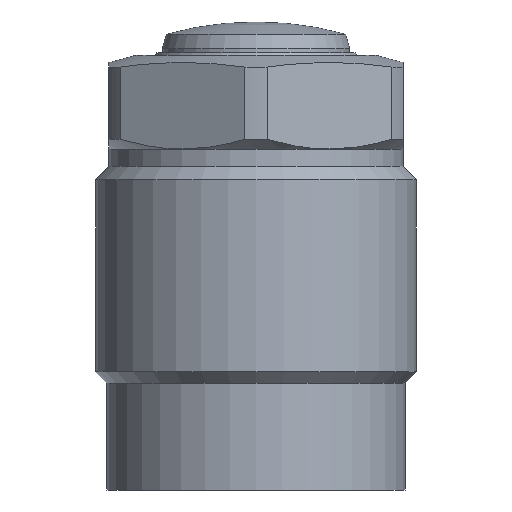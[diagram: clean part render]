
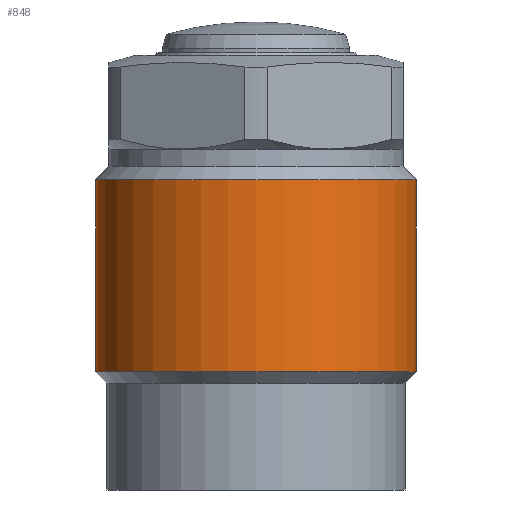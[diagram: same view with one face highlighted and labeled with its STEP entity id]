
A CAD part, front view. The second image highlights one B-rep face of the part: STEP entity #848.
In plain terms, the highlighted cylindrical face has radius 12 mm (diameter 24 mm), a partial arc.
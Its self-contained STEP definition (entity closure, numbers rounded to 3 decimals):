
#785=CARTESIAN_POINT('',(-12.0,0.0,-23.65));
#786=VERTEX_POINT('',#785);
#794=CARTESIAN_POINT('',(12.0,0.0,-23.65));
#795=VERTEX_POINT('',#794);
#802=CARTESIAN_POINT('',(0.0,0.0,-23.65));
#803=DIRECTION('',(0.0,0.0,1.0));
#804=DIRECTION('',(1.0,0.0,-0.0));
#805=AXIS2_PLACEMENT_3D('',#802,#803,#804);
#806=CIRCLE('',#805,12.0);
#807=EDGE_CURVE('no 1483',#786,#795,#806,.T.);
#817=CARTESIAN_POINT('',(-12.,0.0,-9.3));
#818=VERTEX_POINT('',#817);
#819=CARTESIAN_POINT('',(-12.,0.0,-23.65));
#820=DIRECTION('',(0.,-0.0,1.0));
#821=VECTOR('',#820,1.0);
#822=LINE('',#819,#821);
#823=EDGE_CURVE('no 1493',#786,#818,#822,.T.);
#824=ORIENTED_EDGE('',*,*,#823,.F.);
#825=ORIENTED_EDGE('',*,*,#807,.T.);
#826=CARTESIAN_POINT('',(12.,0.0,-9.3));
#827=VERTEX_POINT('',#826);
#828=CARTESIAN_POINT('',(12.,0.0,-23.65));
#829=DIRECTION('',(0.,0.0,1.0));
#830=VECTOR('',#829,1.0);
#831=LINE('',#828,#830);
#832=EDGE_CURVE('no 1501',#795,#827,#831,.T.);
#833=ORIENTED_EDGE('',*,*,#832,.T.);
#834=CARTESIAN_POINT('',(0.0,0.0,-9.3));
#835=DIRECTION('',(0.0,0.0,1.0));
#836=DIRECTION('',(1.0,0.0,-0.0));
#837=AXIS2_PLACEMENT_3D('',#834,#835,#836);
#838=CIRCLE('',#837,12.);
#839=EDGE_CURVE('no 1505',#818,#827,#838,.T.);
#840=ORIENTED_EDGE('',*,*,#839,.F.);
#841=EDGE_LOOP('',(#824,#825,#833,#840));
#842=FACE_OUTER_BOUND('',#841,.T.);
#843=CARTESIAN_POINT('',(0.0,0.0,4.2));
#844=DIRECTION('',(0.0,0.0,1.0));
#845=DIRECTION('',(0.0,1.0,-0.0));
#846=AXIS2_PLACEMENT_3D('',#843,#844,#845);
#847=CYLINDRICAL_SURFACE('',#846,12.);
#848=ADVANCED_FACE('no 1486',(#842),#847,.T.);
